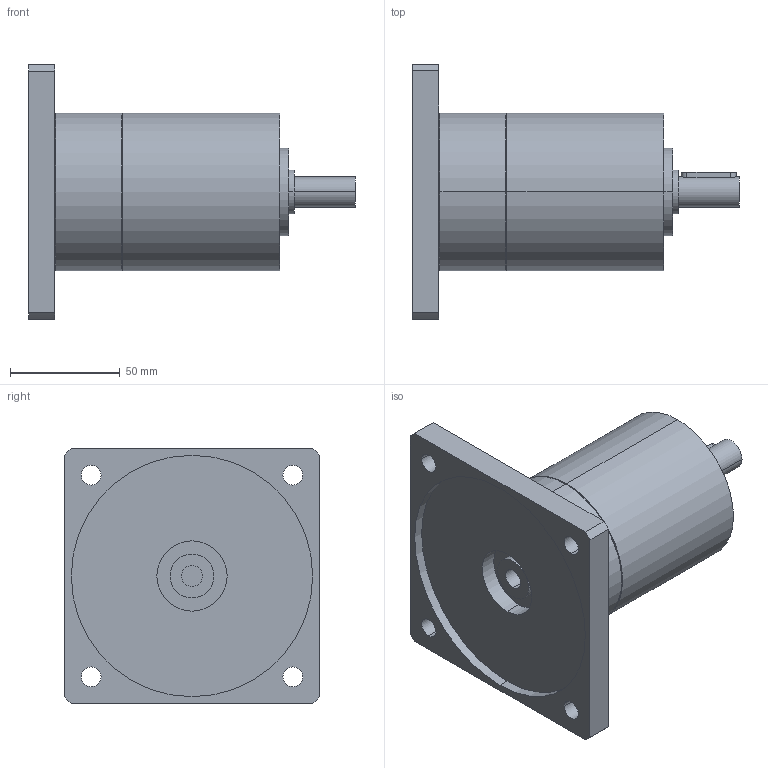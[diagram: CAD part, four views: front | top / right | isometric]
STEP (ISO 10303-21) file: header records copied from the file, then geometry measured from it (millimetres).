
FILE_DESCRIPTION(('CoCreate Modeling STEP Export'),'2;1');
FILE_NAME('GPT75_ig-9-12-16-20-25-28-35-40-50-70-100_14_B14T_9.52_P09.stp','2014-08-27T13:24:46',(''),(''),'CoCreate Modeling STEP processor for AP214 (Solid Model)','CoCreate Modeling 16.00C 25-Feb-2009 (C) Parametric Technology GmbH','');
FILE_SCHEMA(('AUTOMOTIVE_DESIGN { 1 0 10303 214 1 1 1 1 }'));
Length unit declared in the file: millimetre
Products named in the file (2): GPT75_ig-9-12-16-20-25-28-35-40-50-70-100_14_B14T_9.52_P09
Assembly tree (1 placements, depth 2):
  GPT75_ig-9-12-16-20-25-28-35-40-50-70-100_14_B14T_9.52_P09
    GPT75_ig-9-12-16-20-25-28-35-40-50-70-100_14_B14T_9.52_P09
Bounding box: 149 x 116 x 116 mm (x, y, z)
Volume: 534875.7 mm3; surface area: 63039.7 mm2
Topology: 1 solids, 1 shells, 69 faces, 166 edges, 113 vertices
Faces by surface type: cylinder 42, plane 23, cone 4
Entity records: 2161 total; most frequent: CARTESIAN_POINT 664, ORIENTED_EDGE 332, DIRECTION 262, EDGE_CURVE 166, VERTEX_POINT 113, AXIS2_PLACEMENT_3D 99, EDGE_LOOP 91, FACE_OUTER_BOUND 69
